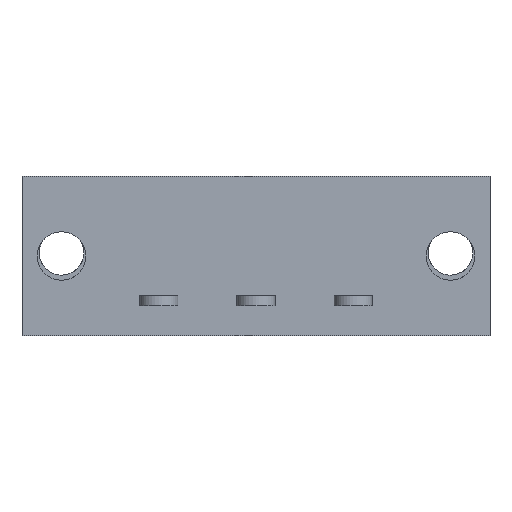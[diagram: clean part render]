
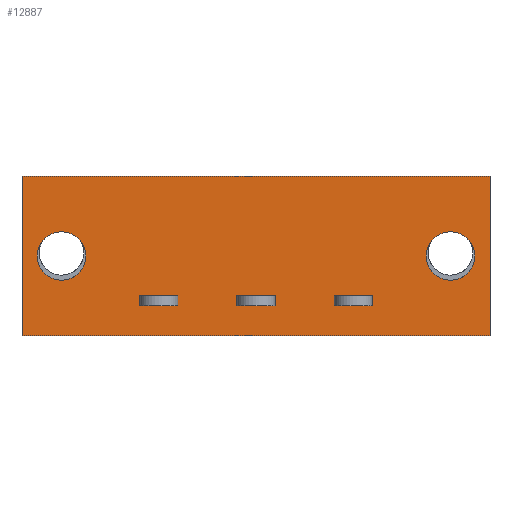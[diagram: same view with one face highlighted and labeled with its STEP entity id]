
A CAD part, front view. The second image highlights one B-rep face of the part: STEP entity #12887.
In plain terms, the highlighted planar face has unit normal (0, -1, 0).
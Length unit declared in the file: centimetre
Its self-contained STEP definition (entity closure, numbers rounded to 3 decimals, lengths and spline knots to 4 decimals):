
#738=CIRCLE('',#21675,0.19);
#749=CIRCLE('',#21834,0.19);
#871=VERTEX_POINT('',#16545);
#872=VERTEX_POINT('',#16546);
#877=VERTEX_POINT('',#16558);
#883=VERTEX_POINT('',#16572);
#1056=VERTEX_POINT('',#17177);
#1057=VERTEX_POINT('',#17178);
#1062=VERTEX_POINT('',#17190);
#1068=VERTEX_POINT('',#17204);
#1298=VERTEX_POINT('',#17983);
#1299=VERTEX_POINT('',#17984);
#1302=VERTEX_POINT('',#17992);
#1309=VERTEX_POINT('',#18013);
#1332=VERTEX_POINT('',#18085);
#1333=VERTEX_POINT('',#18087);
#1334=VERTEX_POINT('',#18099);
#1702=VERTEX_POINT('',#19681);
#1703=VERTEX_POINT('',#19683);
#1706=VERTEX_POINT('',#19691);
#2147=VECTOR('',#13878,1.);
#2151=VECTOR('',#13887,1.);
#2157=VECTOR('',#13896,1.);
#2172=VECTOR('',#13927,1.);
#2332=VECTOR('',#14294,1.);
#2336=VECTOR('',#14303,1.);
#2342=VECTOR('',#14312,1.);
#2357=VECTOR('',#14343,1.);
#2591=VECTOR('',#14845,1.);
#2595=VECTOR('',#14850,1.);
#2598=VECTOR('',#14873,1.);
#2601=VECTOR('',#14877,1.);
#2632=VECTOR('',#14929,1.);
#3071=VECTOR('',#15546,1.);
#3088=VECTOR('',#15577,1.);
#3089=VECTOR('',#15579,1.);
#3583=LINE('',#16544,#2147);
#3587=LINE('',#16557,#2151);
#3593=LINE('',#16571,#2157);
#3608=LINE('',#16611,#2172);
#3768=LINE('',#17176,#2332);
#3772=LINE('',#17189,#2336);
#3778=LINE('',#17203,#2342);
#3793=LINE('',#17243,#2357);
#4027=LINE('',#17982,#2591);
#4031=LINE('',#17991,#2595);
#4034=LINE('',#18012,#2598);
#4037=LINE('',#18017,#2601);
#4068=LINE('',#18086,#2632);
#4507=LINE('',#19682,#3071);
#4524=LINE('',#19720,#3088);
#4525=LINE('',#19722,#3089);
#5094=EDGE_CURVE('',#871,#872,#3583,.T.);
#5100=EDGE_CURVE('',#877,#871,#3587,.T.);
#5107=EDGE_CURVE('',#872,#883,#3593,.T.);
#5125=EDGE_CURVE('',#883,#877,#3608,.T.);
#5368=EDGE_CURVE('',#1056,#1057,#3768,.T.);
#5374=EDGE_CURVE('',#1062,#1056,#3772,.T.);
#5381=EDGE_CURVE('',#1057,#1068,#3778,.T.);
#5399=EDGE_CURVE('',#1068,#1062,#3793,.T.);
#5728=EDGE_CURVE('',#1298,#1299,#4027,.T.);
#5732=EDGE_CURVE('',#1302,#1298,#4031,.T.);
#5741=EDGE_CURVE('',#1309,#1302,#4034,.T.);
#5744=EDGE_CURVE('',#1299,#1309,#4037,.T.);
#5779=EDGE_CURVE('',#1333,#1332,#4068,.T.);
#5786=EDGE_CURVE('',#1334,#1334,#738,.T.);
#6334=EDGE_CURVE('',#1703,#1702,#4507,.T.);
#6338=EDGE_CURVE('',#1706,#1706,#749,.T.);
#6354=EDGE_CURVE('',#1332,#1703,#4524,.T.);
#6355=EDGE_CURVE('',#1333,#1702,#4525,.T.);
#9688=ORIENTED_EDGE('',*,*,#5100,.T.);
#9689=ORIENTED_EDGE('',*,*,#5094,.T.);
#9690=ORIENTED_EDGE('',*,*,#5107,.T.);
#9691=ORIENTED_EDGE('',*,*,#5125,.T.);
#9692=ORIENTED_EDGE('',*,*,#5374,.T.);
#9693=ORIENTED_EDGE('',*,*,#5368,.T.);
#9694=ORIENTED_EDGE('',*,*,#5381,.T.);
#9695=ORIENTED_EDGE('',*,*,#5399,.T.);
#9696=ORIENTED_EDGE('',*,*,#5786,.T.);
#9697=ORIENTED_EDGE('',*,*,#5732,.F.);
#9698=ORIENTED_EDGE('',*,*,#5741,.F.);
#9699=ORIENTED_EDGE('',*,*,#5744,.F.);
#9700=ORIENTED_EDGE('',*,*,#5728,.F.);
#9701=ORIENTED_EDGE('',*,*,#6338,.T.);
#9702=ORIENTED_EDGE('',*,*,#6354,.T.);
#9703=ORIENTED_EDGE('',*,*,#6334,.T.);
#9704=ORIENTED_EDGE('',*,*,#6355,.F.);
#9705=ORIENTED_EDGE('',*,*,#5779,.T.);
#11322=EDGE_LOOP('',(#9688,#9689,#9690,#9691));
#11323=EDGE_LOOP('',(#9692,#9693,#9694,#9695));
#11324=EDGE_LOOP('',(#9696));
#11325=EDGE_LOOP('',(#9697,#9698,#9699,#9700));
#11326=EDGE_LOOP('',(#9701));
#11327=EDGE_LOOP('',(#9702,#9703,#9704,#9705));
#12138=FACE_BOUND('',#11322,.T.);
#12139=FACE_BOUND('',#11323,.T.);
#12140=FACE_BOUND('',#11324,.T.);
#12141=FACE_BOUND('',#11325,.T.);
#12142=FACE_BOUND('',#11326,.T.);
#12143=FACE_BOUND('',#11327,.T.);
#12887=ADVANCED_FACE('',(#12138,#12139,#12140,#12141,#12142,#12143),#13457,
 .T.);
#13457=PLANE('',#21843);
#13878=DIRECTION('',(0.,0.,-1.));
#13887=DIRECTION('',(1.,0.,0.));
#13896=DIRECTION('',(-1.,0.,0.));
#13927=DIRECTION('',(0.,0.,1.));
#14294=DIRECTION('',(0.,0.,-1.));
#14303=DIRECTION('',(1.,0.,0.));
#14312=DIRECTION('',(-1.,0.,0.));
#14343=DIRECTION('',(0.,0.,1.));
#14845=DIRECTION('',(0.,0.,-1.));
#14850=DIRECTION('',(-1.,0.,0.));
#14873=DIRECTION('',(0.,0.,1.));
#14877=DIRECTION('',(1.,0.,0.));
#14929=DIRECTION('',(0.,0.,-1.));
#14941=DIRECTION('',(0.,1.,0.));
#14942=DIRECTION('',(0.19,0.,0.));
#15546=DIRECTION('',(0.,0.,1.));
#15552=DIRECTION('',(0.,1.,0.));
#15553=DIRECTION('',(0.19,0.,0.));
#15577=DIRECTION('',(1.,0.,0.));
#15578=DIRECTION('',(0.,-1.,0.));
#15579=DIRECTION('',(1.,0.,0.));
#16544=CARTESIAN_POINT('',(1.674,-0.53,-0.2));
#16545=CARTESIAN_POINT('',(1.674,-0.53,-0.335));
#16546=CARTESIAN_POINT('',(1.674,-0.53,-0.415));
#16557=CARTESIAN_POINT('',(1.679,-0.53,-0.335));
#16558=CARTESIAN_POINT('',(1.374,-0.53,-0.335));
#16571=CARTESIAN_POINT('',(1.679,-0.53,-0.415));
#16572=CARTESIAN_POINT('',(1.374,-0.53,-0.415));
#16611=CARTESIAN_POINT('',(1.374,-0.53,-0.2));
#17176=CARTESIAN_POINT('',(0.912,-0.53,-0.2));
#17177=CARTESIAN_POINT('',(0.912,-0.53,-0.335));
#17178=CARTESIAN_POINT('',(0.912,-0.53,-0.415));
#17189=CARTESIAN_POINT('',(0.155,-0.53,-0.335));
#17190=CARTESIAN_POINT('',(0.612,-0.53,-0.335));
#17203=CARTESIAN_POINT('',(0.155,-0.53,-0.415));
#17204=CARTESIAN_POINT('',(0.612,-0.53,-0.415));
#17243=CARTESIAN_POINT('',(0.612,-0.53,-0.2));
#17982=CARTESIAN_POINT('',(-0.15,-0.53,-0.2));
#17983=CARTESIAN_POINT('',(-0.15,-0.53,-0.335));
#17984=CARTESIAN_POINT('',(-0.15,-0.53,-0.415));
#17991=CARTESIAN_POINT('',(-0.155,-0.53,-0.335));
#17992=CARTESIAN_POINT('',(0.15,-0.53,-0.335));
#18012=CARTESIAN_POINT('',(0.15,-0.53,-0.2));
#18013=CARTESIAN_POINT('',(0.15,-0.53,-0.415));
#18017=CARTESIAN_POINT('',(-0.155,-0.53,-0.415));
#18085=CARTESIAN_POINT('',(-1.072,-0.53,-0.65));
#18086=CARTESIAN_POINT('',(-1.072,-0.53,0.6));
#18087=CARTESIAN_POINT('',(-1.072,-0.53,0.6));
#18098=CARTESIAN_POINT('',(-0.762,-0.53,-0.025));
#18099=CARTESIAN_POINT('',(-0.952,-0.53,-0.025));
#19681=CARTESIAN_POINT('',(2.596,-0.53,0.6));
#19682=CARTESIAN_POINT('',(2.596,-0.53,0.6));
#19683=CARTESIAN_POINT('',(2.596,-0.53,-0.65));
#19690=CARTESIAN_POINT('',(2.286,-0.53,-0.025));
#19691=CARTESIAN_POINT('',(2.096,-0.53,-0.025));
#19720=CARTESIAN_POINT('',(-1.072,-0.53,-0.65));
#19721=CARTESIAN_POINT('',(1.834,-0.53,-0.025));
#19722=CARTESIAN_POINT('',(-1.072,-0.53,0.6));
#21675=AXIS2_PLACEMENT_3D('',#18098,#14941,#14942);
#21834=AXIS2_PLACEMENT_3D('',#19690,#15552,#15553);
#21843=AXIS2_PLACEMENT_3D('',#19721,#15578,$);
